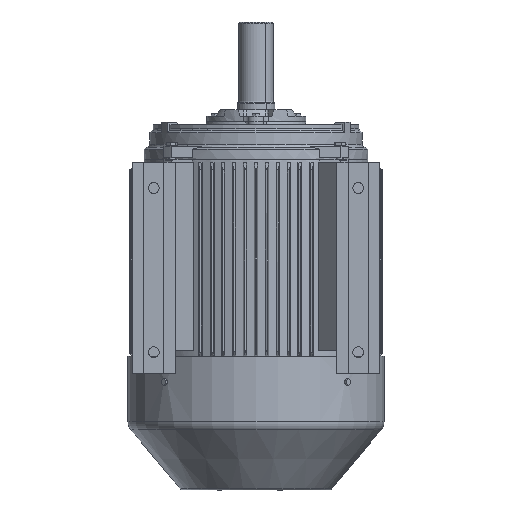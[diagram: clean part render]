
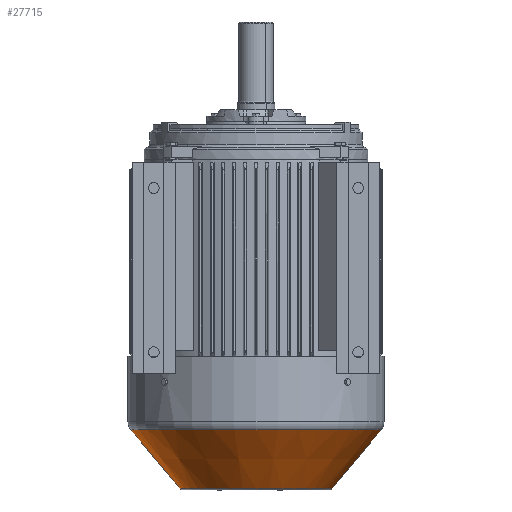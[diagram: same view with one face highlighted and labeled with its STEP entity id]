
A CAD part, front view. The second image highlights one B-rep face of the part: STEP entity #27715.
In plain terms, the highlighted conical face has half-angle 40 degrees and reference radius 132.173 mm.
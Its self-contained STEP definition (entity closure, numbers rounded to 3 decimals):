
#1640 = EDGE_CURVE ( 'NONE', #19748, #19741, #87875, .T. ) ;
#1641 = EDGE_CURVE ( 'NONE', #19743, #19733, #87880, .T. ) ;
#1720 = EDGE_CURVE ( 'NONE', #19748, #19743, #88131, .T. ) ;
#1721 = EDGE_CURVE ( 'NONE', #19741, #19733, #88134, .T. ) ;
#7260 = ORIENTED_EDGE ( 'NONE', *, *, #1640, .F. ) ;
#7261 = ORIENTED_EDGE ( 'NONE', *, *, #1720, .T. ) ;
#7262 = ORIENTED_EDGE ( 'NONE', *, *, #1641, .T. ) ;
#7263 = ORIENTED_EDGE ( 'NONE', *, *, #1721, .F. ) ;
#14086 = CARTESIAN_POINT ( 'NONE',  ( 128.301, -217.853, 0. ) ) ;
#14092 = CARTESIAN_POINT ( 'NONE',  ( 128.301, 217.853, 0. ) ) ;
#14094 = CARTESIAN_POINT ( 'NONE',  ( 230.41, -132.173, 0. ) ) ;
#14098 = CARTESIAN_POINT ( 'NONE',  ( 230.41, 132.173, 0. ) ) ;
#19733 = VERTEX_POINT ( 'NONE', #14086 ) ;
#19741 = VERTEX_POINT ( 'NONE', #14092 ) ;
#19743 = VERTEX_POINT ( 'NONE', #14094 ) ;
#19748 = VERTEX_POINT ( 'NONE', #14098 ) ;
#27715 = ADVANCED_FACE ( 'NONE', ( #90070 ), #90084, .T. ) ;
#36154 = CARTESIAN_POINT ( 'NONE',  ( 230.41, 0., 0. ) ) ;
#36156 = DIRECTION ( 'NONE',  ( -1., 0., 0. ) ) ;
#36158 = DIRECTION ( 'NONE',  ( 0., -1., 0. ) ) ;
#36163 = CARTESIAN_POINT ( 'NONE',  ( 128.301, 0., 0. ) ) ;
#36165 = DIRECTION ( 'NONE',  ( -1., 0., 0. ) ) ;
#36167 = DIRECTION ( 'NONE',  ( 0., -1., 0. ) ) ;
#40698 = DIRECTION ( 'NONE',  ( -0.766, 0.643, 0. ) ) ;
#40708 = CARTESIAN_POINT ( 'NONE',  ( 230.41, 132.173, 0. ) ) ;
#40712 = CARTESIAN_POINT ( 'NONE',  ( 230.41, -132.173, 0. ) ) ;
#40713 = DIRECTION ( 'NONE',  ( -0.766, -0.643, 0. ) ) ;
#75465 = DIRECTION ( 'NONE',  ( 0., -1., 0. ) ) ;
#75473 = DIRECTION ( 'NONE',  ( -1., 0., 0. ) ) ;
#75474 = CARTESIAN_POINT ( 'NONE',  ( 230.41, 0., 0. ) ) ;
#77875 = EDGE_LOOP ( 'NONE', ( #7260, #7261, #7262, #7263 ) ) ;
#83094 = AXIS2_PLACEMENT_3D ( 'NONE', #36154, #36156, #36158 ) ;
#83095 = AXIS2_PLACEMENT_3D ( 'NONE', #36163, #36165, #36167 ) ;
#83137 = AXIS2_PLACEMENT_3D ( 'NONE', #75474, #75473, #75465 ) ;
#87875 = LINE ( 'NONE', #40708, #87882 ) ;
#87880 = LINE ( 'NONE', #40712, #87887 ) ;
#87882 = VECTOR ( 'NONE', #40698, 1000. ) ;
#87887 = VECTOR ( 'NONE', #40713, 1000. ) ;
#88131 = CIRCLE ( 'NONE', #83094, 132.173 ) ;
#88134 = CIRCLE ( 'NONE', #83095, 217.853 ) ;
#90070 = FACE_OUTER_BOUND ( 'NONE', #77875, .T. ) ;
#90084 = CONICAL_SURFACE ( 'NONE', #83137, 132.173, 0.698 ) ;
